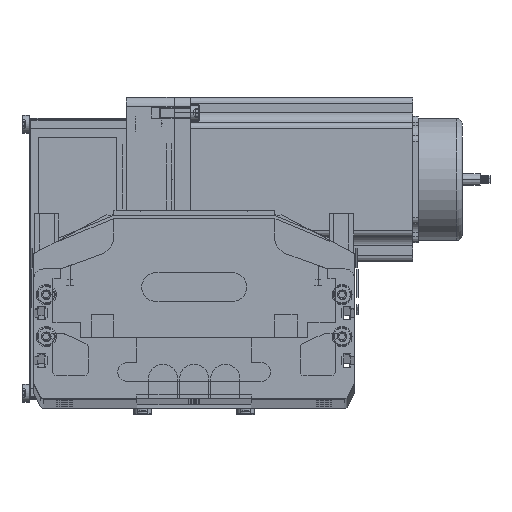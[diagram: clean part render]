
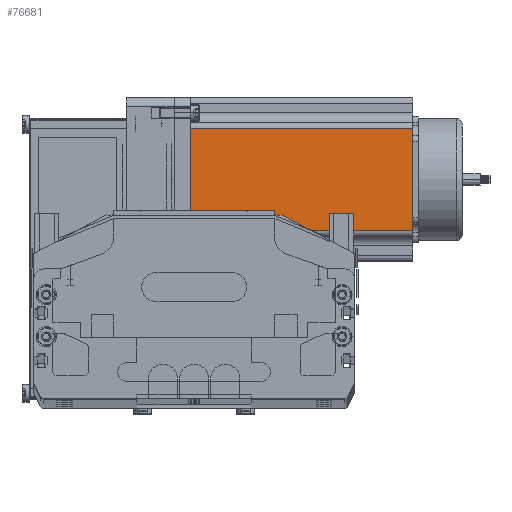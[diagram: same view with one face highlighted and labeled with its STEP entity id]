
A CAD part, top view. The second image highlights one B-rep face of the part: STEP entity #76681.
In plain terms, the highlighted planar face has unit normal (0, 0, 1) as drawn and (0, -1, 0) by its records, which use the part's own axes.
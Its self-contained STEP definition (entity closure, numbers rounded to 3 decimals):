
#3800 = CARTESIAN_POINT ( 'NONE',  ( 16.16, 0., 116.5 ) ) ;
#3802 = LINE ( 'NONE', #3800, #4194 ) ;
#4193 = DIRECTION ( 'NONE',  ( 0., 0., -1. ) ) ;
#4194 = VECTOR ( 'NONE', #4193, 1000. ) ;
#5371 = CARTESIAN_POINT ( 'NONE',  ( 0., 0., 116.5 ) ) ;
#5372 = LINE ( 'NONE', #5371, #5439 ) ;
#5439 = VECTOR ( 'NONE', #5523, 1000. ) ;
#5482 = VECTOR ( 'NONE', #5509, 1000. ) ;
#5488 = LINE ( 'NONE', #5510, #5482 ) ;
#5509 = DIRECTION ( 'NONE',  ( 1., 0., 0. ) ) ;
#5510 = CARTESIAN_POINT ( 'NONE',  ( 0., 0., 0. ) ) ;
#5523 = DIRECTION ( 'NONE',  ( 1., 0., 0. ) ) ;
#5782 = AXIS2_PLACEMENT_3D ( 'NONE', #5784, #5783, #5808 ) ;
#5783 = DIRECTION ( 'NONE',  ( 0., 1., 0. ) ) ;
#5784 = CARTESIAN_POINT ( 'NONE',  ( 0., 0., 116.5 ) ) ;
#5792 = PLANE ( 'NONE',  #5782 ) ;
#5808 = DIRECTION ( 'NONE',  ( 0., 0., 1. ) ) ;
#5885 = FACE_OUTER_BOUND ( 'NONE', #76525, .T. ) ;
#5897 = CARTESIAN_POINT ( 'NONE',  ( 16.16, 0., 116.5 ) ) ;
#8858 = LINE ( 'NONE', #8917, #9049 ) ;
#8882 = CARTESIAN_POINT ( 'NONE',  ( 69.74, 0., 0. ) ) ;
#8885 = CARTESIAN_POINT ( 'NONE',  ( 16.16, 0., 0. ) ) ;
#8917 = CARTESIAN_POINT ( 'NONE',  ( 69.74, 0., 116.5 ) ) ;
#8918 = CARTESIAN_POINT ( 'NONE',  ( 69.74, 0., 116.5 ) ) ;
#9048 = DIRECTION ( 'NONE',  ( 0., 0., 1. ) ) ;
#9049 = VECTOR ( 'NONE', #9048, 1000. ) ;
#76480 = ORIENTED_EDGE ( 'NONE', *, *, #76585, .T. ) ;
#76492 = ORIENTED_EDGE ( 'NONE', *, *, #76590, .F. ) ;
#76493 = EDGE_CURVE ( 'NONE', #76683, #76529, #3802, .T. ) ;
#76525 = EDGE_LOOP ( 'NONE', ( #76480, #76685, #76492, #76680 ) ) ;
#76529 = VERTEX_POINT ( 'NONE', #8885 ) ;
#76531 = VERTEX_POINT ( 'NONE', #8882 ) ;
#76549 = EDGE_CURVE ( 'NONE', #76531, #76550, #8858, .T. ) ;
#76550 = VERTEX_POINT ( 'NONE', #8918 ) ;
#76585 = EDGE_CURVE ( 'NONE', #76529, #76531, #5488, .T. ) ;
#76590 = EDGE_CURVE ( 'NONE', #76683, #76550, #5372, .T. ) ;
#76680 = ORIENTED_EDGE ( 'NONE', *, *, #76493, .T. ) ;
#76681 = ADVANCED_FACE ( 'NONE', ( #5885 ), #5792, .F. ) ;
#76683 = VERTEX_POINT ( 'NONE', #5897 ) ;
#76685 = ORIENTED_EDGE ( 'NONE', *, *, #76549, .T. ) ;
